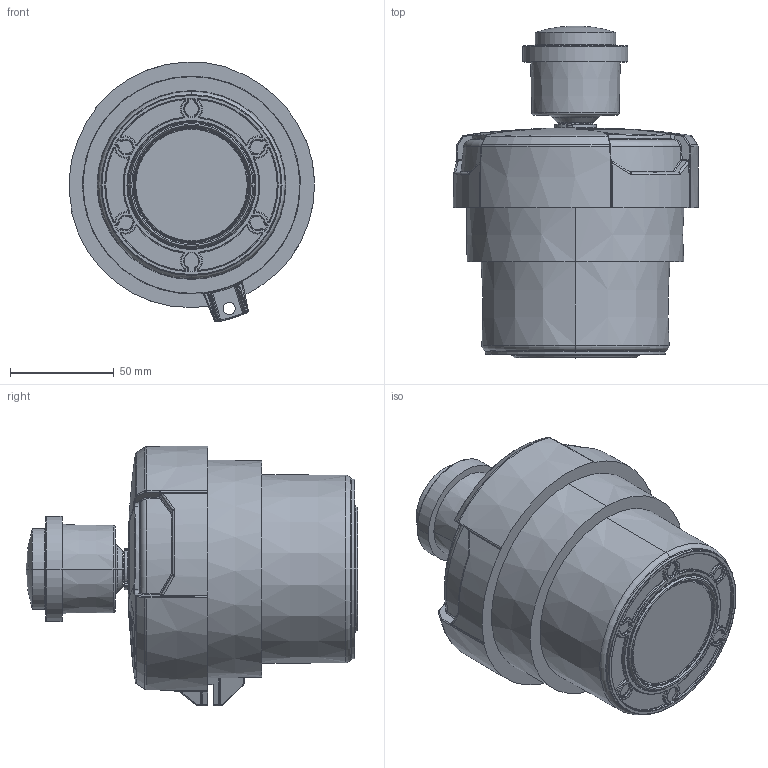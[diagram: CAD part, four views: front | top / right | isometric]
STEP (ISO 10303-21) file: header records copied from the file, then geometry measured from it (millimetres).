
FILE_DESCRIPTION((''),'2;1');
FILE_NAME('1000417947','2023-07-17T',('v.pichlmaier'),(''),'PRO/ENGINEER BY PARAMETRIC TECHNOLOGY CORPORATION, 2015110','PRO/ENGINEER BY PARAMETRIC TECHNOLOGY CORPORATION, 2015110','');
FILE_SCHEMA(('AUTOMOTIVE_DESIGN { 1 0 10303 214 1 1 1 1 }'));
Length unit declared in the file: millimetre
Products named in the file (1): 1000417947
Bounding box: 117.86 x 159.58 x 125.01 mm (x, y, z)
Volume: 950478.4 mm3; surface area: 73933.1 mm2
Topology: 1 solids, 2 shells, 1838 faces, 4477 edges, 2636 vertices
Faces by surface type: bspline 870, torus 268, plane 248, cylinder 207, cone 177, sphere 68
Entity records: 111206 total; most frequent: CARTESIAN_POINT 60456, ORIENTED_EDGE 8946, DIRECTION 6266, PRESENTATION_STYLE_ASSIGNMENT 4474, STYLED_ITEM 4474, CURVE_STYLE 4473, EDGE_CURVE 4473, AXIS2_PLACEMENT_3D 2726
